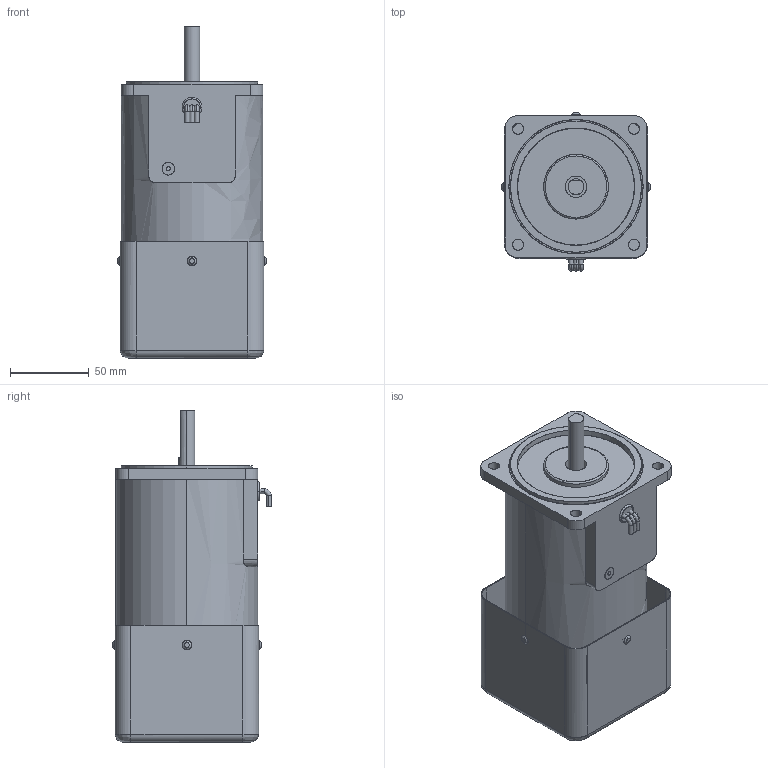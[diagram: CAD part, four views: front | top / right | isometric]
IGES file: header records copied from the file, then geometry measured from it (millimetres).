
Start section: SolidWorks IGES file using analytic representation for surfaces
Global section: file name: \\楷备家烹钦辑滚\data (D)\档搁 枚\权其捞瘤 档搁\6. TORQUE\90\40W\(6-43) 9TDD∴-40F2.IGS; native system: SolidWorks 2007; preprocessor: SolidWorks 2007; author: user; date: 150625.094613; units: millimetre
Bounding box: 94 x 100.5 x 210.5 mm (x, y, z)
Surface area: 173355.8 mm2 (no closed solid volume)
Topology: 0 solids, 0 shells, 360 faces, 6431 edges, 6431 vertices
Faces by surface type: revolution 228, bspline 132
